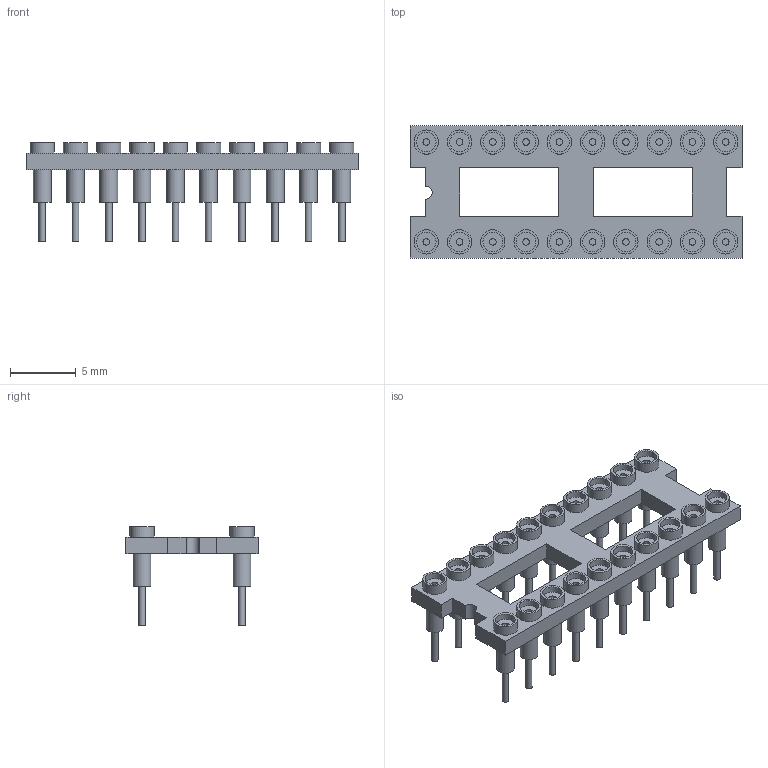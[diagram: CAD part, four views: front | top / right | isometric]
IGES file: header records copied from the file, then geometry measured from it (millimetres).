
Global section: file name: No Iges File Name specified; native system: AutoDesk Inventor R6.0; preprocessor: AutoDesk Inventor Iges Exporter R6.0; author: No Author specified; organization: No Organization specified; date: 20080103.180908; units: inch
Bounding box: 25.34 x 10.08 x 7.55 mm (x, y, z)
Surface area: 1274.7 mm2 (no closed solid volume)
Topology: 0 solids, 0 shells, 244 faces, 712 edges, 592 vertices
Faces by surface type: plane 103, bspline 80, revolution 61
